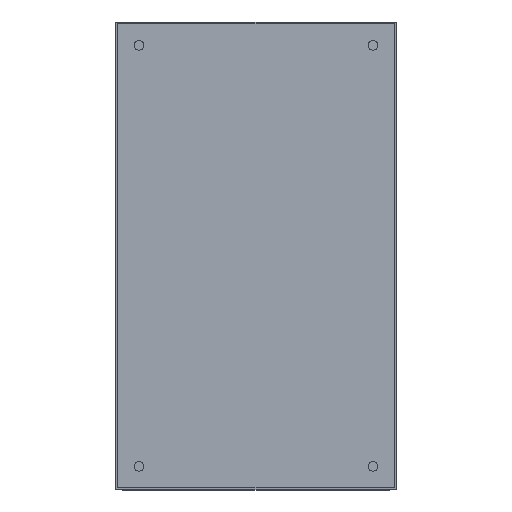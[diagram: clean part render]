
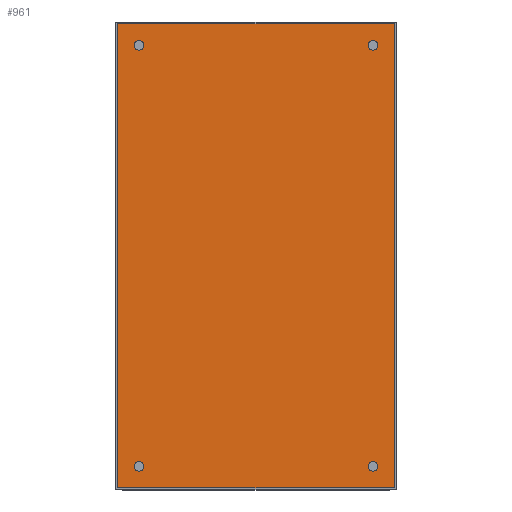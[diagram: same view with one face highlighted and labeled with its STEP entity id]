
A CAD part, top view. The second image highlights one B-rep face of the part: STEP entity #961.
In plain terms, the highlighted planar face has unit normal (0, 0, 1).
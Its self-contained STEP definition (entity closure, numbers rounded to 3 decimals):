
#18=FACE_BOUND('',#281,.T.);
#19=FACE_BOUND('',#282,.T.);
#20=FACE_BOUND('',#283,.T.);
#21=FACE_BOUND('',#284,.T.);
#86=LINE('',#4498,#138);
#90=LINE('',#4506,#142);
#93=LINE('',#4512,#145);
#96=LINE('',#4517,#148);
#138=VECTOR('',#1253,10.);
#142=VECTOR('',#1259,10.);
#145=VECTOR('',#1264,10.);
#148=VECTOR('',#1269,10.);
#165=PLANE('',#1057);
#222=FACE_OUTER_BOUND('',#280,.T.);
#280=EDGE_LOOP('',(#866,#867,#868,#869));
#281=EDGE_LOOP('',(#870));
#282=EDGE_LOOP('',(#871));
#283=EDGE_LOOP('',(#872));
#284=EDGE_LOOP('',(#873));
#326=CIRCLE('',#1042,5.137);
#328=CIRCLE('',#1045,5.137);
#330=CIRCLE('',#1048,5.137);
#332=CIRCLE('',#1051,5.137);
#446=VERTEX_POINT('',#4472);
#448=VERTEX_POINT('',#4478);
#450=VERTEX_POINT('',#4484);
#452=VERTEX_POINT('',#4490);
#454=VERTEX_POINT('',#4496);
#455=VERTEX_POINT('',#4497);
#458=VERTEX_POINT('',#4505);
#460=VERTEX_POINT('',#4511);
#578=EDGE_CURVE('',#446,#446,#326,.T.);
#581=EDGE_CURVE('',#448,#448,#328,.T.);
#584=EDGE_CURVE('',#450,#450,#330,.T.);
#587=EDGE_CURVE('',#452,#452,#332,.T.);
#590=EDGE_CURVE('',#454,#455,#86,.T.);
#594=EDGE_CURVE('',#455,#458,#90,.T.);
#597=EDGE_CURVE('',#458,#460,#93,.T.);
#600=EDGE_CURVE('',#460,#454,#96,.T.);
#866=ORIENTED_EDGE('',*,*,#600,.T.);
#867=ORIENTED_EDGE('',*,*,#590,.T.);
#868=ORIENTED_EDGE('',*,*,#594,.T.);
#869=ORIENTED_EDGE('',*,*,#597,.T.);
#870=ORIENTED_EDGE('',*,*,#578,.T.);
#871=ORIENTED_EDGE('',*,*,#581,.T.);
#872=ORIENTED_EDGE('',*,*,#584,.T.);
#873=ORIENTED_EDGE('',*,*,#587,.T.);
#961=ADVANCED_FACE('',(#222,#18,#19,#20,#21),#165,.T.);
#1042=AXIS2_PLACEMENT_3D('',#4473,#1225,#1226);
#1045=AXIS2_PLACEMENT_3D('',#4479,#1232,#1233);
#1048=AXIS2_PLACEMENT_3D('',#4485,#1239,#1240);
#1051=AXIS2_PLACEMENT_3D('',#4491,#1246,#1247);
#1057=AXIS2_PLACEMENT_3D('',#4519,#1271,#1272);
#1225=DIRECTION('center_axis',(0.,0.,-1.));
#1226=DIRECTION('ref_axis',(1.,0.,0.));
#1232=DIRECTION('center_axis',(0.,0.,-1.));
#1233=DIRECTION('ref_axis',(1.,0.,0.));
#1239=DIRECTION('center_axis',(0.,0.,-1.));
#1240=DIRECTION('ref_axis',(1.,0.,0.));
#1246=DIRECTION('center_axis',(0.,0.,-1.));
#1247=DIRECTION('ref_axis',(1.,0.,0.));
#1253=DIRECTION('',(-1.,0.,0.));
#1259=DIRECTION('',(0.,-1.,0.));
#1264=DIRECTION('',(1.,0.,0.));
#1269=DIRECTION('',(0.,1.,0.));
#1271=DIRECTION('center_axis',(0.,0.,1.));
#1272=DIRECTION('ref_axis',(-1.,0.,0.));
#4472=CARTESIAN_POINT('',(-130.137,-225.,90.));
#4473=CARTESIAN_POINT('Origin',(-125.,-225.,90.));
#4478=CARTESIAN_POINT('',(-130.137,225.,90.));
#4479=CARTESIAN_POINT('Origin',(-125.,225.,90.));
#4484=CARTESIAN_POINT('',(119.863,225.,90.));
#4485=CARTESIAN_POINT('Origin',(125.,225.,90.));
#4490=CARTESIAN_POINT('',(119.863,-225.,90.));
#4491=CARTESIAN_POINT('Origin',(125.,-225.,90.));
#4496=CARTESIAN_POINT('',(148.,248.,90.));
#4497=CARTESIAN_POINT('',(-148.,248.,90.));
#4498=CARTESIAN_POINT('',(148.,248.,90.));
#4505=CARTESIAN_POINT('',(-148.,-248.,90.));
#4506=CARTESIAN_POINT('',(-148.,248.,90.));
#4511=CARTESIAN_POINT('',(148.,-248.,90.));
#4512=CARTESIAN_POINT('',(-148.,-248.,90.));
#4517=CARTESIAN_POINT('',(148.,-248.,90.));
#4519=CARTESIAN_POINT('Origin',(0.,0.,90.));
